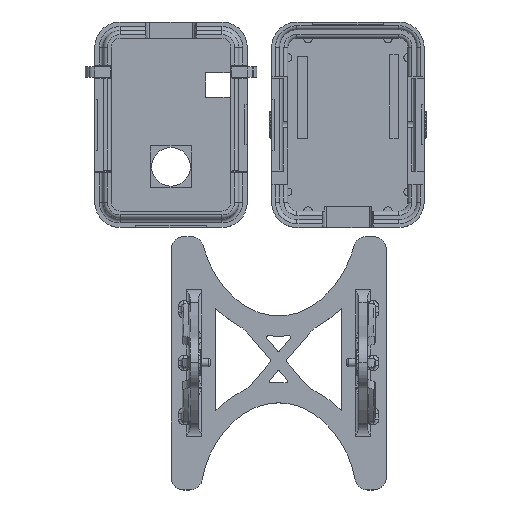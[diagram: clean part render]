
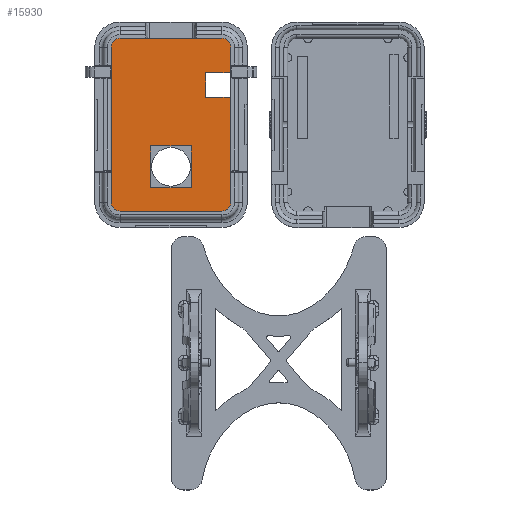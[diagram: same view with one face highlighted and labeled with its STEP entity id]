
A CAD part, top view. The second image highlights one B-rep face of the part: STEP entity #15930.
In plain terms, the highlighted planar face has unit normal (0, 0, 1).
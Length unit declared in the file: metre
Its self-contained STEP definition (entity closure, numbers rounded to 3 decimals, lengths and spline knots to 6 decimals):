
#805=CIRCLE('',#17309,0.0022);
#807=CIRCLE('',#17312,0.0022);
#808=CIRCLE('',#17314,0.0022);
#809=CIRCLE('',#17316,0.0022);
#4138=ORIENTED_EDGE('',*,*,#7952,.T.);
#4139=ORIENTED_EDGE('',*,*,#7953,.T.);
#4140=ORIENTED_EDGE('',*,*,#7954,.T.);
#4141=ORIENTED_EDGE('',*,*,#7955,.T.);
#4142=ORIENTED_EDGE('',*,*,#7794,.T.);
#4143=ORIENTED_EDGE('',*,*,#7815,.F.);
#4144=ORIENTED_EDGE('',*,*,#7796,.F.);
#4145=ORIENTED_EDGE('',*,*,#7814,.F.);
#4146=ORIENTED_EDGE('',*,*,#7777,.T.);
#4147=ORIENTED_EDGE('',*,*,#7813,.F.);
#4148=ORIENTED_EDGE('',*,*,#7783,.T.);
#4149=ORIENTED_EDGE('',*,*,#7811,.F.);
#4150=ORIENTED_EDGE('',*,*,#7942,.F.);
#4151=ORIENTED_EDGE('',*,*,#7951,.T.);
#4152=ORIENTED_EDGE('',*,*,#7949,.T.);
#4153=ORIENTED_EDGE('',*,*,#7945,.F.);
#7777=EDGE_CURVE('',#9875,#9874,#11281,.T.);
#7783=EDGE_CURVE('',#9877,#9879,#11287,.T.);
#7794=EDGE_CURVE('',#9881,#9887,#11298,.T.);
#7796=EDGE_CURVE('',#9888,#9889,#11300,.T.);
#7811=EDGE_CURVE('',#9881,#9879,#805,.T.);
#7813=EDGE_CURVE('',#9877,#9874,#807,.T.);
#7814=EDGE_CURVE('',#9875,#9888,#808,.T.);
#7815=EDGE_CURVE('',#9889,#9887,#809,.T.);
#7942=EDGE_CURVE('',#9978,#9979,#11391,.T.);
#7945=EDGE_CURVE('',#9979,#9981,#11394,.T.);
#7949=EDGE_CURVE('',#9982,#9981,#11398,.T.);
#7951=EDGE_CURVE('',#9978,#9982,#11400,.T.);
#7952=EDGE_CURVE('',#9984,#9985,#11401,.F.);
#7953=EDGE_CURVE('',#9985,#9986,#11402,.T.);
#7954=EDGE_CURVE('',#9986,#9987,#11403,.T.);
#7955=EDGE_CURVE('',#9987,#9984,#11404,.F.);
#9874=VERTEX_POINT('',#25761);
#9875=VERTEX_POINT('',#25763);
#9877=VERTEX_POINT('',#25769);
#9879=VERTEX_POINT('',#25773);
#9881=VERTEX_POINT('',#25778);
#9887=VERTEX_POINT('',#25793);
#9888=VERTEX_POINT('',#25797);
#9889=VERTEX_POINT('',#25799);
#9978=VERTEX_POINT('',#26096);
#9979=VERTEX_POINT('',#26098);
#9981=VERTEX_POINT('',#26104);
#9982=VERTEX_POINT('',#26108);
#9984=VERTEX_POINT('',#26117);
#9985=VERTEX_POINT('',#26118);
#9986=VERTEX_POINT('',#26120);
#9987=VERTEX_POINT('',#26122);
#11281=LINE('',#25762,#12453);
#11287=LINE('',#25774,#12459);
#11298=LINE('',#25794,#12470);
#11300=LINE('',#25798,#12472);
#11391=LINE('',#26097,#12563);
#11394=LINE('',#26103,#12566);
#11398=LINE('',#26111,#12570);
#11400=LINE('',#26114,#12572);
#11401=LINE('',#26116,#12573);
#11402=LINE('',#26119,#12574);
#11403=LINE('',#26121,#12575);
#11404=LINE('',#26123,#12576);
#12453=VECTOR('',#20591,1.);
#12459=VECTOR('',#20599,1.);
#12470=VECTOR('',#20612,1.);
#12472=VECTOR('',#20616,1.);
#12563=VECTOR('',#20903,1.);
#12566=VECTOR('',#20908,1.);
#12570=VECTOR('',#20914,1.);
#12572=VECTOR('',#20918,1.);
#12573=VECTOR('',#20921,1.);
#12574=VECTOR('',#20922,1.);
#12575=VECTOR('',#20923,1.);
#12576=VECTOR('',#20924,1.);
#13529=EDGE_LOOP('',(#4138,#4139,#4140,#4141));
#13530=EDGE_LOOP('',(#4142,#4143,#4144,#4145,#4146,#4147,#4148,#4149));
#13531=EDGE_LOOP('',(#4150,#4151,#4152,#4153));
#14479=FACE_BOUND('',#13529,.T.);
#14480=FACE_BOUND('',#13530,.T.);
#14481=FACE_BOUND('',#13531,.T.);
#15259=PLANE('',#17403);
#15930=ADVANCED_FACE('',(#14479,#14480,#14481),#15259,.F.);
#17309=AXIS2_PLACEMENT_3D('',#25828,#20642,#20643);
#17312=AXIS2_PLACEMENT_3D('',#25831,#20648,#20649);
#17314=AXIS2_PLACEMENT_3D('',#25833,#20652,#20653);
#17316=AXIS2_PLACEMENT_3D('',#25835,#20656,#20657);
#17403=AXIS2_PLACEMENT_3D('',#26115,#20919,#20920);
#20591=DIRECTION('',(0.,-1.,0.));
#20599=DIRECTION('',(1.,0.,0.));
#20612=DIRECTION('',(0.,1.,0.));
#20616=DIRECTION('',(1.,0.,0.));
#20642=DIRECTION('',(0.,0.,-1.));
#20643=DIRECTION('',(1.,0.,0.));
#20648=DIRECTION('',(0.,0.,-1.));
#20649=DIRECTION('',(1.,0.,0.));
#20652=DIRECTION('',(0.,0.,-1.));
#20653=DIRECTION('',(1.,0.,0.));
#20656=DIRECTION('',(0.,0.,-1.));
#20657=DIRECTION('',(1.,0.,0.));
#20903=DIRECTION('',(-1.,0.,0.));
#20908=DIRECTION('',(0.,-1.,0.));
#20914=DIRECTION('',(-1.,0.,0.));
#20918=DIRECTION('',(0.,-1.,0.));
#20919=DIRECTION('',(0.,0.,-1.));
#20920=DIRECTION('',(1.,0.,0.));
#20921=DIRECTION('',(-1.,0.,0.));
#20922=DIRECTION('',(0.,-1.,0.));
#20923=DIRECTION('',(-1.,0.,0.));
#20924=DIRECTION('',(0.,-1.,0.));
#25761=CARTESIAN_POINT('',(-0.0581,-0.019,-0.002));
#25762=CARTESIAN_POINT('',(-0.0581,0.,-0.002));
#25763=CARTESIAN_POINT('',(-0.0581,0.019,-0.002));
#25769=CARTESIAN_POINT('',(-0.0559,-0.0212,-0.002));
#25773=CARTESIAN_POINT('',(-0.0309,-0.0212,-0.002));
#25774=CARTESIAN_POINT('',(-0.0434,-0.0212,-0.002));
#25778=CARTESIAN_POINT('',(-0.0287,-0.019,-0.002));
#25793=CARTESIAN_POINT('',(-0.0287,0.019,-0.002));
#25794=CARTESIAN_POINT('',(-0.0287,0.,-0.002));
#25797=CARTESIAN_POINT('',(-0.0559,0.0212,-0.002));
#25798=CARTESIAN_POINT('',(-0.0434,0.0212,-0.002));
#25799=CARTESIAN_POINT('',(-0.0309,0.0212,-0.002));
#25828=CARTESIAN_POINT('',(-0.0309,-0.019,-0.002));
#25831=CARTESIAN_POINT('',(-0.0559,-0.019,-0.002));
#25833=CARTESIAN_POINT('',(-0.0559,0.019,-0.002));
#25835=CARTESIAN_POINT('',(-0.0309,0.019,-0.002));
#26096=CARTESIAN_POINT('',(-0.03842,-0.00517,-0.002));
#26097=CARTESIAN_POINT('',(-0.0434,-0.00517,-0.002));
#26098=CARTESIAN_POINT('',(-0.04838,-0.00517,-0.002));
#26103=CARTESIAN_POINT('',(-0.04838,-0.0103,-0.002));
#26104=CARTESIAN_POINT('',(-0.04838,-0.01543,-0.002));
#26108=CARTESIAN_POINT('',(-0.03842,-0.01543,-0.002));
#26111=CARTESIAN_POINT('',(-0.0434,-0.01543,-0.002));
#26114=CARTESIAN_POINT('',(-0.03842,-0.0103,-0.002));
#26115=CARTESIAN_POINT('',(-0.0434,0.,-0.002));
#26116=CARTESIAN_POINT('',(-0.0434,0.01275,-0.002));
#26117=CARTESIAN_POINT('',(-0.0349,0.01275,-0.002));
#26118=CARTESIAN_POINT('',(-0.0289,0.01275,-0.002));
#26119=CARTESIAN_POINT('',(-0.0289,0.00975,-0.002));
#26120=CARTESIAN_POINT('',(-0.0289,0.00675,-0.002));
#26121=CARTESIAN_POINT('',(-0.0319,0.00675,-0.002));
#26122=CARTESIAN_POINT('',(-0.0349,0.00675,-0.002));
#26123=CARTESIAN_POINT('',(-0.0349,0.,-0.002));
